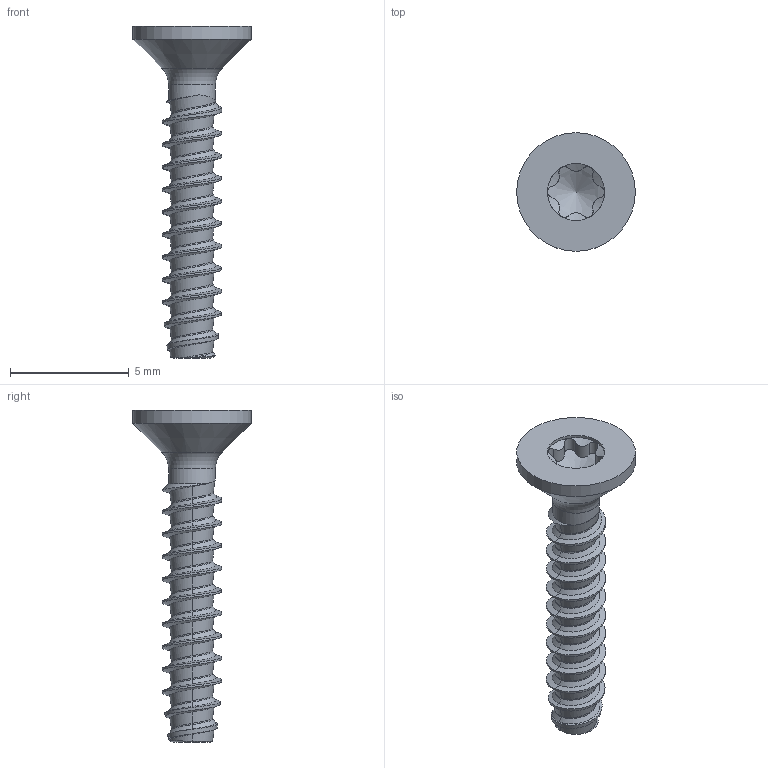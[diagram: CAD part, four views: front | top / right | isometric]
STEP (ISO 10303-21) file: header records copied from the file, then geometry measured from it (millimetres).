
FILE_DESCRIPTION(/* description */ (''),/* implementation_level */ '2;1');
FILE_NAME(/* name */ 'KN6041-STSplus-25x14-T8.step',/* time_stamp */ '2017-10-12T09:21:23+02:00',/* author */ (''),/* organization */ (''),/* preprocessor_version */ 'ST-DEVELOPER v16',/* originating_system */ 'SIEMENS PLM Software NX 10.0',/* authorisation */ '');
FILE_SCHEMA (('AUTOMOTIVE_DESIGN { 1 0 10303 214 3 1 1 1 }'));
Length unit declared in the file: millimetre
Products named in the file (1): KN6041-STSplus-25x14-T8
Bounding box: 5 x 5 x 14 mm (x, y, z)
Surface area: 167.4 mm2 (no closed solid volume)
Topology: 0 solids, 1 shells, 77 faces, 200 edges, 124 vertices
Faces by surface type: bspline 51, cylinder 17, cone 5, torus 2, plane 2
Full cylindrical faces by diameter (mm): 1.97 x1, 2.42 x1, 5 x1
Entity records: 5633 total; most frequent: CARTESIAN_POINT 4200, ORIENTED_EDGE 366, EDGE_CURVE 183, DIRECTION 134, VERTEX_POINT 117, B_SPLINE_CURVE_WITH_KNOTS 114, EDGE_LOOP 85, ADVANCED_FACE 77
